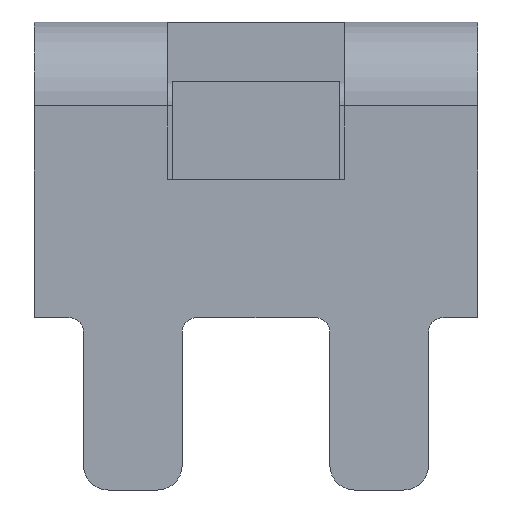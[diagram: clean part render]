
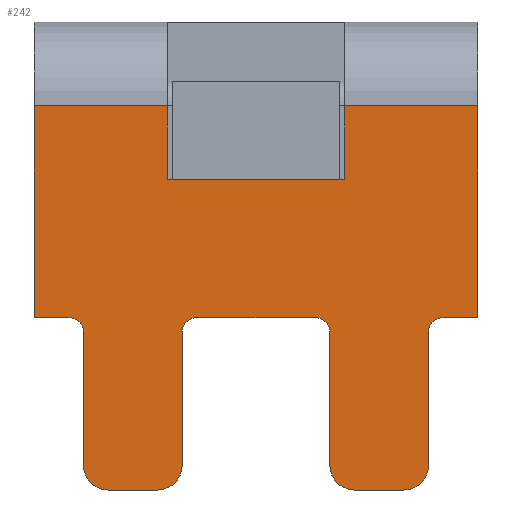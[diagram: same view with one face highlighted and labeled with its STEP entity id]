
A CAD part, front view. The second image highlights one B-rep face of the part: STEP entity #242.
In plain terms, the highlighted planar face has unit normal (0, -1, 0).
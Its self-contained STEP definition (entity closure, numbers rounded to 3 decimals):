
#169=FACE_OUTER_BOUND('',#709,.T.);
#242=ADVANCED_FACE('',(#169),#302,.F.);
#302=PLANE('',#1713);
#342=LINE('',#2245,#506);
#344=LINE('',#2252,#508);
#352=LINE('',#2288,#516);
#356=LINE('',#2300,#520);
#360=LINE('',#2312,#524);
#364=LINE('',#2324,#528);
#368=LINE('',#2336,#532);
#372=LINE('',#2348,#536);
#376=LINE('',#2360,#540);
#379=LINE('',#2365,#543);
#418=LINE('',#2469,#582);
#419=LINE('',#2472,#583);
#420=LINE('',#2473,#584);
#421=LINE('',#2477,#585);
#422=LINE('',#2479,#586);
#423=LINE('',#2480,#587);
#506=VECTOR('',#1795,1.);
#508=VECTOR('',#1801,1.);
#516=VECTOR('',#1837,1.);
#520=VECTOR('',#1849,1.);
#524=VECTOR('',#1861,1.);
#528=VECTOR('',#1873,1.);
#532=VECTOR('',#1885,1.);
#536=VECTOR('',#1897,1.);
#540=VECTOR('',#1909,1.);
#543=VECTOR('',#1914,1.);
#582=VECTOR('',#2011,1.);
#583=VECTOR('',#2012,1.);
#584=VECTOR('',#2013,1.);
#585=VECTOR('',#2016,1.);
#586=VECTOR('',#2017,1.);
#587=VECTOR('',#2018,1.);
#709=EDGE_LOOP('',(#930,#931,#932,#933,#934,#935,#936,#937,#938,#939,#940,
#941,#942,#943,#944,#945,#946,#947,#948,#949,#950,#951,#952,#953));
#930=ORIENTED_EDGE('',*,*,#1477,.T.);
#931=ORIENTED_EDGE('',*,*,#1478,.T.);
#932=ORIENTED_EDGE('',*,*,#1365,.T.);
#933=ORIENTED_EDGE('',*,*,#1424,.T.);
#934=ORIENTED_EDGE('',*,*,#1421,.T.);
#935=ORIENTED_EDGE('',*,*,#1418,.T.);
#936=ORIENTED_EDGE('',*,*,#1415,.T.);
#937=ORIENTED_EDGE('',*,*,#1413,.T.);
#938=ORIENTED_EDGE('',*,*,#1409,.F.);
#939=ORIENTED_EDGE('',*,*,#1407,.T.);
#940=ORIENTED_EDGE('',*,*,#1403,.F.);
#941=ORIENTED_EDGE('',*,*,#1401,.T.);
#942=ORIENTED_EDGE('',*,*,#1397,.F.);
#943=ORIENTED_EDGE('',*,*,#1394,.T.);
#944=ORIENTED_EDGE('',*,*,#1391,.F.);
#945=ORIENTED_EDGE('',*,*,#1389,.T.);
#946=ORIENTED_EDGE('',*,*,#1385,.F.);
#947=ORIENTED_EDGE('',*,*,#1383,.T.);
#948=ORIENTED_EDGE('',*,*,#1479,.T.);
#949=ORIENTED_EDGE('',*,*,#1480,.T.);
#950=ORIENTED_EDGE('',*,*,#1481,.T.);
#951=ORIENTED_EDGE('',*,*,#1482,.F.);
#952=ORIENTED_EDGE('',*,*,#1368,.T.);
#953=ORIENTED_EDGE('',*,*,#1483,.T.);
#1214=VERTEX_POINT('',#2239);
#1217=VERTEX_POINT('',#2244);
#1220=VERTEX_POINT('',#2251);
#1221=VERTEX_POINT('',#2253);
#1231=VERTEX_POINT('',#2279);
#1233=VERTEX_POINT('',#2283);
#1235=VERTEX_POINT('',#2289);
#1237=VERTEX_POINT('',#2294);
#1239=VERTEX_POINT('',#2301);
#1241=VERTEX_POINT('',#2307);
#1243=VERTEX_POINT('',#2313);
#1245=VERTEX_POINT('',#2318);
#1247=VERTEX_POINT('',#2325);
#1249=VERTEX_POINT('',#2330);
#1251=VERTEX_POINT('',#2337);
#1253=VERTEX_POINT('',#2342);
#1255=VERTEX_POINT('',#2349);
#1257=VERTEX_POINT('',#2355);
#1259=VERTEX_POINT('',#2361);
#1296=VERTEX_POINT('',#2470);
#1297=VERTEX_POINT('',#2471);
#1298=VERTEX_POINT('',#2474);
#1299=VERTEX_POINT('',#2476);
#1300=VERTEX_POINT('',#2478);
#1365=EDGE_CURVE('',#1214,#1217,#342,.T.);
#1368=EDGE_CURVE('',#1221,#1220,#344,.T.);
#1383=EDGE_CURVE('',#1231,#1233,#1589,.T.);
#1385=EDGE_CURVE('',#1231,#1235,#352,.T.);
#1389=EDGE_CURVE('',#1237,#1235,#1591,.T.);
#1391=EDGE_CURVE('',#1237,#1239,#356,.T.);
#1394=EDGE_CURVE('',#1241,#1239,#1593,.T.);
#1397=EDGE_CURVE('',#1241,#1243,#360,.T.);
#1401=EDGE_CURVE('',#1245,#1243,#1595,.T.);
#1403=EDGE_CURVE('',#1245,#1247,#364,.T.);
#1407=EDGE_CURVE('',#1249,#1247,#1597,.T.);
#1409=EDGE_CURVE('',#1249,#1251,#368,.T.);
#1413=EDGE_CURVE('',#1253,#1251,#1599,.T.);
#1415=EDGE_CURVE('',#1255,#1253,#372,.T.);
#1418=EDGE_CURVE('',#1257,#1255,#1601,.T.);
#1421=EDGE_CURVE('',#1259,#1257,#376,.T.);
#1424=EDGE_CURVE('',#1217,#1259,#379,.T.);
#1477=EDGE_CURVE('',#1296,#1297,#418,.T.);
#1478=EDGE_CURVE('',#1297,#1214,#419,.T.);
#1479=EDGE_CURVE('',#1233,#1298,#420,.T.);
#1480=EDGE_CURVE('',#1298,#1299,#1616,.T.);
#1481=EDGE_CURVE('',#1299,#1300,#421,.T.);
#1482=EDGE_CURVE('',#1221,#1300,#422,.T.);
#1483=EDGE_CURVE('',#1220,#1296,#423,.T.);
#1589=CIRCLE('',#1656,0.5);
#1591=CIRCLE('',#1660,0.5);
#1593=CIRCLE('',#1664,0.3);
#1595=CIRCLE('',#1668,0.3);
#1597=CIRCLE('',#1672,0.5);
#1599=CIRCLE('',#1676,0.5);
#1601=CIRCLE('',#1680,0.3);
#1616=CIRCLE('',#1712,0.3);
#1656=AXIS2_PLACEMENT_3D('',#2284,#1832,#1833);
#1660=AXIS2_PLACEMENT_3D('',#2296,#1844,#1845);
#1664=AXIS2_PLACEMENT_3D('',#2306,#1855,#1856);
#1668=AXIS2_PLACEMENT_3D('',#2320,#1868,#1869);
#1672=AXIS2_PLACEMENT_3D('',#2332,#1880,#1881);
#1676=AXIS2_PLACEMENT_3D('',#2344,#1892,#1893);
#1680=AXIS2_PLACEMENT_3D('',#2354,#1903,#1904);
#1712=AXIS2_PLACEMENT_3D('',#2475,#2014,#2015);
#1713=AXIS2_PLACEMENT_3D('',#2481,#2019,#2020);
#1795=DIRECTION('',(-1.,0.,0.));
#1801=DIRECTION('',(-1.,0.,0.));
#1832=DIRECTION('',(0.,-1.,0.));
#1833=DIRECTION('',(0.,0.,1.));
#1837=DIRECTION('',(-1.,0.,0.));
#1844=DIRECTION('',(0.,-1.,0.));
#1845=DIRECTION('',(0.,0.,1.));
#1849=DIRECTION('',(0.,0.,1.));
#1855=DIRECTION('',(0.,1.,0.));
#1856=DIRECTION('',(0.,0.,1.));
#1861=DIRECTION('',(-1.,0.,0.));
#1868=DIRECTION('',(0.,1.,0.));
#1869=DIRECTION('',(0.,0.,1.));
#1873=DIRECTION('',(0.,0.,-1.));
#1880=DIRECTION('',(0.,-1.,0.));
#1881=DIRECTION('',(0.,0.,1.));
#1885=DIRECTION('',(-1.,0.,0.));
#1892=DIRECTION('',(0.,-1.,0.));
#1893=DIRECTION('',(0.,0.,1.));
#1897=DIRECTION('',(0.,0.,-1.));
#1903=DIRECTION('',(0.,1.,0.));
#1904=DIRECTION('',(0.,0.,1.));
#1909=DIRECTION('',(1.,0.,0.));
#1914=DIRECTION('',(0.,0.,-1.));
#2011=DIRECTION('',(-1.,0.,0.));
#2012=DIRECTION('',(0.,0.,1.));
#2013=DIRECTION('',(0.,0.,1.));
#2014=DIRECTION('',(0.,1.,0.));
#2015=DIRECTION('',(0.,0.,1.));
#2016=DIRECTION('',(1.,0.,0.));
#2017=DIRECTION('',(0.,0.,-1.));
#2018=DIRECTION('',(0.,0.,-1.));
#2019=DIRECTION('',(0.,1.,0.));
#2020=DIRECTION('',(0.,0.,-1.));
#2239=CARTESIAN_POINT('',(2.7,-1.5,8.3));
#2244=CARTESIAN_POINT('',(0.,-1.5,8.3));
#2245=CARTESIAN_POINT('',(9.,-1.5,8.3));
#2251=CARTESIAN_POINT('',(6.3,-1.5,8.3));
#2252=CARTESIAN_POINT('',(9.,-1.5,8.3));
#2253=CARTESIAN_POINT('',(9.,-1.5,8.3));
#2279=CARTESIAN_POINT('',(7.5,-1.5,0.5));
#2283=CARTESIAN_POINT('',(8.,-1.5,1.));
#2284=CARTESIAN_POINT('',(7.5,-1.5,1.));
#2288=CARTESIAN_POINT('',(9.,-1.5,0.5));
#2289=CARTESIAN_POINT('',(6.5,-1.5,0.5));
#2294=CARTESIAN_POINT('',(6.,-1.5,1.));
#2296=CARTESIAN_POINT('',(6.5,-1.5,1.));
#2300=CARTESIAN_POINT('',(6.,-1.5,0.));
#2301=CARTESIAN_POINT('',(6.,-1.5,3.7));
#2306=CARTESIAN_POINT('',(5.7,-1.5,3.7));
#2307=CARTESIAN_POINT('',(5.7,-1.5,4.));
#2312=CARTESIAN_POINT('',(0.,-1.5,4.));
#2313=CARTESIAN_POINT('',(3.3,-1.5,4.));
#2318=CARTESIAN_POINT('',(3.,-1.5,3.7));
#2320=CARTESIAN_POINT('',(3.3,-1.5,3.7));
#2324=CARTESIAN_POINT('',(3.,-1.5,4.5));
#2325=CARTESIAN_POINT('',(3.,-1.5,1.));
#2330=CARTESIAN_POINT('',(2.5,-1.5,0.5));
#2332=CARTESIAN_POINT('',(2.5,-1.5,1.));
#2336=CARTESIAN_POINT('',(9.,-1.5,0.5));
#2337=CARTESIAN_POINT('',(1.5,-1.5,0.5));
#2342=CARTESIAN_POINT('',(1.,-1.5,1.));
#2344=CARTESIAN_POINT('',(1.5,-1.5,1.));
#2348=CARTESIAN_POINT('',(1.,-1.5,8.3));
#2349=CARTESIAN_POINT('',(1.,-1.5,3.7));
#2354=CARTESIAN_POINT('',(0.7,-1.5,3.7));
#2355=CARTESIAN_POINT('',(0.7,-1.5,4.));
#2360=CARTESIAN_POINT('',(9.,-1.5,4.));
#2361=CARTESIAN_POINT('',(0.,-1.5,4.));
#2365=CARTESIAN_POINT('',(0.,-1.5,8.3));
#2469=CARTESIAN_POINT('',(9.,-1.5,6.8));
#2470=CARTESIAN_POINT('',(6.3,-1.5,6.8));
#2471=CARTESIAN_POINT('',(2.7,-1.5,6.8));
#2472=CARTESIAN_POINT('',(2.7,-1.5,8.3));
#2473=CARTESIAN_POINT('',(8.,-1.5,8.3));
#2474=CARTESIAN_POINT('',(8.,-1.5,3.7));
#2475=CARTESIAN_POINT('',(8.3,-1.5,3.7));
#2476=CARTESIAN_POINT('',(8.3,-1.5,4.));
#2477=CARTESIAN_POINT('',(9.,-1.5,4.));
#2478=CARTESIAN_POINT('',(9.,-1.5,4.));
#2479=CARTESIAN_POINT('',(9.,-1.5,8.3));
#2480=CARTESIAN_POINT('',(6.3,-1.5,8.3));
#2481=CARTESIAN_POINT('',(9.,-1.5,8.3));
